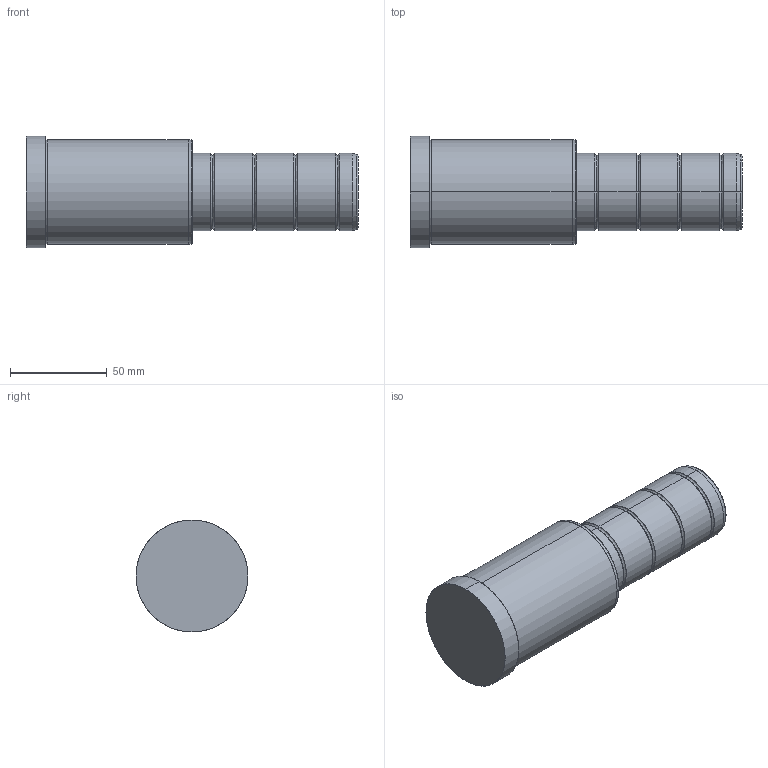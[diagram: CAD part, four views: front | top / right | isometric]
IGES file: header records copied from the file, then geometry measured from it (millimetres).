
Start section: SolidWorks IGES file using analytic representation for surfaces
Global section: file name: C:\Documents and Settings\kalite-mail\Desktop\IGS\D02\40\D02 - 40x86x86.IGS; native system: SolidWorks 2008; preprocessor: SolidWorks 2008; author: kalite-mail; date: 080617.101157; units: millimetre
Bounding box: 172 x 58 x 58 mm (x, y, z)
Surface area: 31140.1 mm2 (no closed solid volume)
Topology: 0 solids, 0 shells, 48 faces, 808 edges, 808 vertices
Faces by surface type: bspline 26, revolution 22
